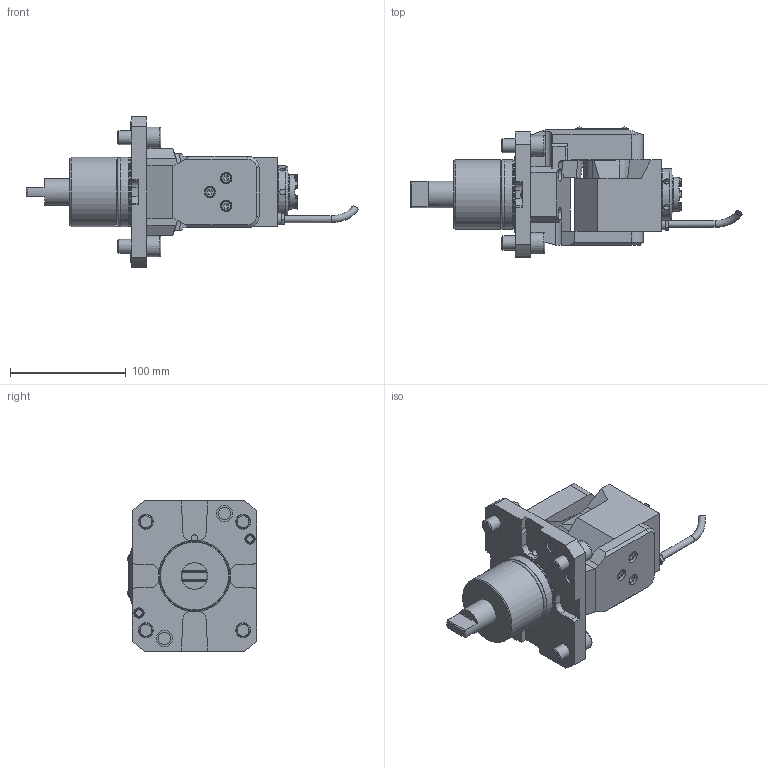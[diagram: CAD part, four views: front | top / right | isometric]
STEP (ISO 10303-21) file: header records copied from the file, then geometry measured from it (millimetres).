
FILE_DESCRIPTION(/* description */ (''),/* implementation_level */ '2;1');
FILE_NAME(/* name */ '196986',/* time_stamp */ '2023-04-24T08:46:36+02:00',/* author */ (''),/* organization */ (''),/* preprocessor_version */ 'ST-DEVELOPER v16.5',/* originating_system */ 'HiCAD 2017 2201.0 Build 268',/* authorisation */ '');
FILE_SCHEMA (('AUTOMOTIVE_DESIGN { 1 0 10303 214 1 1 1 1 }'));
Products named in the file (25): Root; Teil; GEWINDE; DIN 13-M24x1; DIN 13-M32x1,5; DIN 76-M6; DIN 13-M8; DIN 76-M5; 0°
Assembly tree (24 placements, depth 3):
  Root
    Teil
      GEWINDE
      GEWINDE
      GEWINDE
      GEWINDE
      GEWINDE
      GEWINDE
      GEWINDE
      GEWINDE
      GEWINDE
      GEWINDE
      GEWINDE
      GEWINDE
      GEWINDE
      GEWINDE
      DIN 13-M24x1
      DIN 13-M32x1,5
      DIN 76-M6
      DIN 13-M8
      DIN 13-M8
      GEWINDE
      DIN 76-M5
      DIN 76-M6
      0°
Bounding box: 287.04 x 112.3 x 130 mm (x, y, z)
Volume: 909398.5 mm3; surface area: 141916.8 mm2
Topology: 30 solids, 42 shells, 1016 faces, 2494 edges, 1618 vertices
Faces by surface type: plane 579, cylinder 291, cone 72, bspline 38, torus 32, sphere 4
Full cylindrical faces by diameter (mm): 2.2 x4, 3.141 x1, 4 x2, 4.019 x3, 4.2 x1, 4.773 x16, 5 x9, 5.1 x6, 5.5 x3, 6 x20, 6.6 x4, 6.8 x7, 8 x6, 8.5 x3, 8.773 x2, 9 x2, 10 x8, 10.2 x8, 10.82 x2, 11 x4, 12 x8, 13 x4, 14.18 x2, 18 x4, 18.2 x1, 19 x1, 21 x2, 23 x2, 23.4 x1, 24 x1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
Entity records: 59131 total; most frequent: CARTESIAN_POINT 10959, PRESENTATION_STYLE_ASSIGNMENT 4897, OVER_RIDING_STYLED_ITEM 4874, DIRECTION 4644, COLOUR_RGB 4337, DRAUGHTING_PRE_DEFINED_CURVE_FONT 4334, CURVE_STYLE 4334, ORIENTED_EDGE 4334
